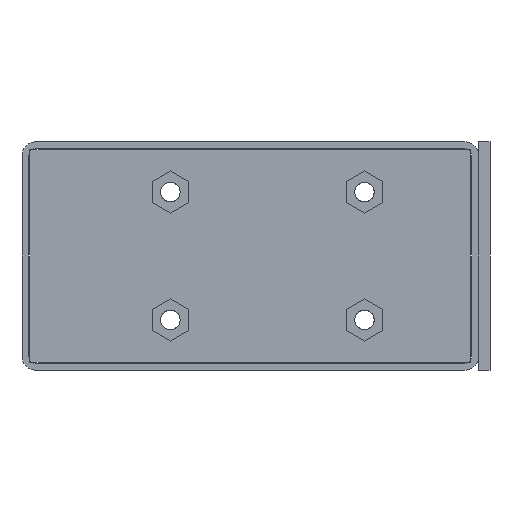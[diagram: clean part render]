
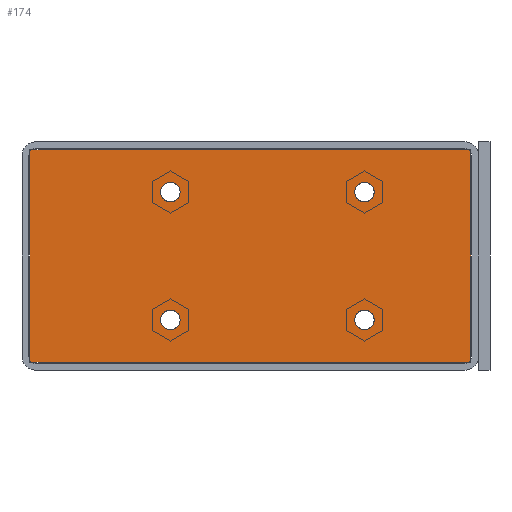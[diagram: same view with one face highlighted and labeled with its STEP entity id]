
A CAD part, left-side view. The second image highlights one B-rep face of the part: STEP entity #174.
In plain terms, the highlighted planar face has unit normal (-1, 0, 0).
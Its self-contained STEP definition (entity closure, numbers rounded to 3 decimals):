
#174=ADVANCED_FACE('',(#305,#306,#307,#308,#309),#237,.T.);
#237=PLANE('',#1603);
#305=FACE_BOUND('',#397,.T.);
#306=FACE_BOUND('',#398,.T.);
#307=FACE_BOUND('',#399,.T.);
#308=FACE_BOUND('',#400,.T.);
#309=FACE_BOUND('',#401,.T.);
#397=EDGE_LOOP('',(#597,#598,#599,#600));
#398=EDGE_LOOP('',(#601));
#399=EDGE_LOOP('',(#602));
#400=EDGE_LOOP('',(#603));
#401=EDGE_LOOP('',(#604));
#597=ORIENTED_EDGE('',*,*,#1019,.T.);
#598=ORIENTED_EDGE('',*,*,#1020,.T.);
#599=ORIENTED_EDGE('',*,*,#1021,.T.);
#600=ORIENTED_EDGE('',*,*,#1022,.T.);
#601=ORIENTED_EDGE('',*,*,#1018,.T.);
#602=ORIENTED_EDGE('',*,*,#1016,.T.);
#603=ORIENTED_EDGE('',*,*,#1014,.T.);
#604=ORIENTED_EDGE('',*,*,#1012,.T.);
#870=VERTEX_POINT('',#2210);
#872=VERTEX_POINT('',#2215);
#874=VERTEX_POINT('',#2220);
#876=VERTEX_POINT('',#2225);
#877=VERTEX_POINT('',#2228);
#878=VERTEX_POINT('',#2229);
#879=VERTEX_POINT('',#2231);
#880=VERTEX_POINT('',#2233);
#1012=EDGE_CURVE('',#870,#870,#1509,.T.);
#1014=EDGE_CURVE('',#872,#872,#1511,.T.);
#1016=EDGE_CURVE('',#874,#874,#1513,.T.);
#1018=EDGE_CURVE('',#876,#876,#1515,.T.);
#1019=EDGE_CURVE('',#877,#878,#1165,.T.);
#1020=EDGE_CURVE('',#878,#879,#1166,.T.);
#1021=EDGE_CURVE('',#879,#880,#1167,.T.);
#1022=EDGE_CURVE('',#880,#877,#1168,.T.);
#1165=LINE('',#2227,#1293);
#1166=LINE('',#2230,#1294);
#1167=LINE('',#2232,#1295);
#1168=LINE('',#2234,#1296);
#1293=VECTOR('',#1844,1.);
#1294=VECTOR('',#1845,1.);
#1295=VECTOR('',#1846,1.);
#1296=VECTOR('',#1847,1.);
#1509=CIRCLE('',#1592,4.25);
#1511=CIRCLE('',#1595,4.25);
#1513=CIRCLE('',#1598,4.25);
#1515=CIRCLE('',#1601,4.25);
#1592=AXIS2_PLACEMENT_3D('',#2209,#1822,#1823);
#1595=AXIS2_PLACEMENT_3D('',#2214,#1828,#1829);
#1598=AXIS2_PLACEMENT_3D('',#2219,#1834,#1835);
#1601=AXIS2_PLACEMENT_3D('',#2224,#1840,#1841);
#1603=AXIS2_PLACEMENT_3D('',#2235,#1848,#1849);
#1822=DIRECTION('',(1.,0.,0.));
#1823=DIRECTION('',(0.,0.,-1.));
#1828=DIRECTION('',(1.,0.,0.));
#1829=DIRECTION('',(0.,0.,-1.));
#1834=DIRECTION('',(1.,0.,0.));
#1835=DIRECTION('',(0.,0.,-1.));
#1840=DIRECTION('',(1.,0.,0.));
#1841=DIRECTION('',(0.,0.,-1.));
#1844=DIRECTION('',(0.,1.,0.));
#1845=DIRECTION('',(0.,0.,-1.));
#1846=DIRECTION('',(0.,-1.,0.));
#1847=DIRECTION('',(0.,0.,1.));
#1848=DIRECTION('',(-1.,0.,0.));
#1849=DIRECTION('',(0.,0.,1.));
#2209=CARTESIAN_POINT('',(-1063.,185.,2132.));
#2210=CARTESIAN_POINT('',(-1063.,185.,2127.75));
#2214=CARTESIAN_POINT('',(-1063.,185.,2188.));
#2215=CARTESIAN_POINT('',(-1063.,185.,2183.75));
#2219=CARTESIAN_POINT('',(-1063.,270.,2188.));
#2220=CARTESIAN_POINT('',(-1063.,270.,2183.75));
#2224=CARTESIAN_POINT('',(-1063.,270.,2132.));
#2225=CARTESIAN_POINT('',(-1063.,270.,2127.75));
#2227=CARTESIAN_POINT('',(-1063.,141.,2206.5));
#2228=CARTESIAN_POINT('',(-1063.,138.5,2206.5));
#2229=CARTESIAN_POINT('',(-1063.,331.5,2206.5));
#2230=CARTESIAN_POINT('',(-1063.,331.5,2204.));
#2231=CARTESIAN_POINT('',(-1063.,331.5,2113.5));
#2232=CARTESIAN_POINT('',(-1063.,141.,2113.5));
#2233=CARTESIAN_POINT('',(-1063.,138.5,2113.5));
#2234=CARTESIAN_POINT('',(-1063.,138.5,2204.));
#2235=CARTESIAN_POINT('',(-1063.,141.,2204.));
